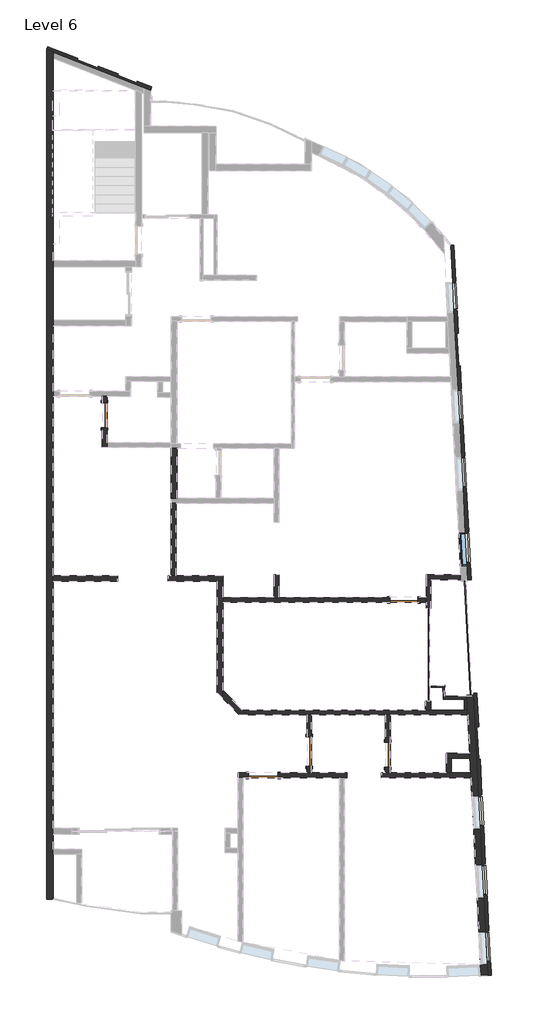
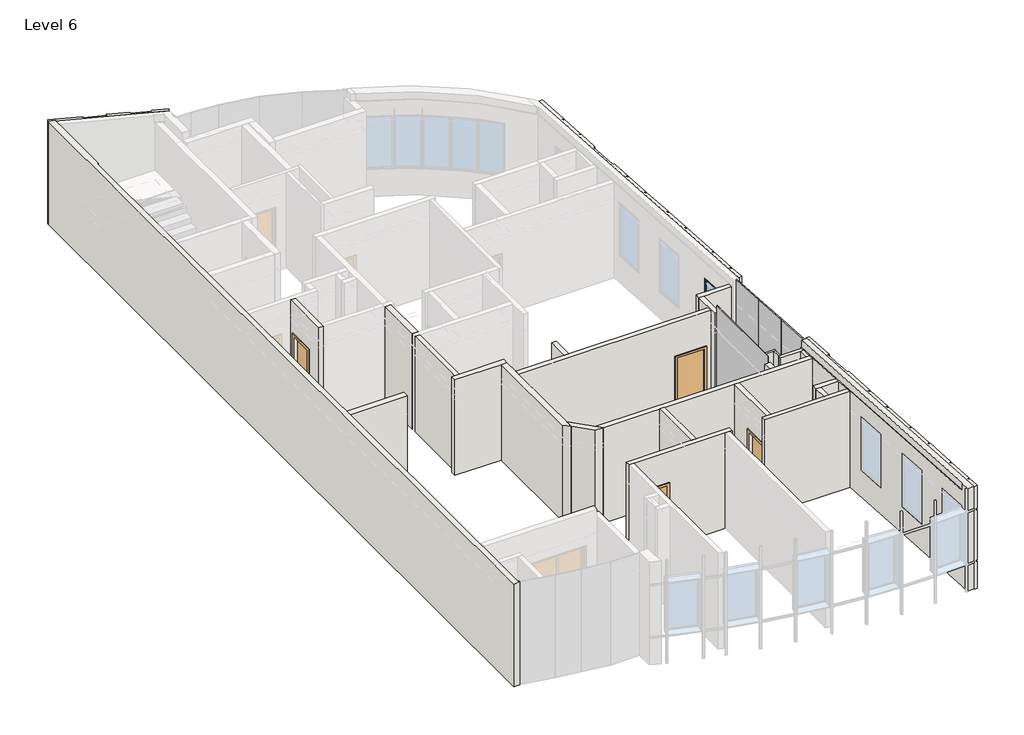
# One storey, part 2 of 5: 27 walls, 5 doors, 4 plates, 1 window.
"""IFC4 building model written with IfcOpenShell, lengths in millimetres."""

from ifc_helpers import new_model, si_unit, frame, origin, place, context, project, spatial, polyline, circle_curve, outline, extrude, faceted_brep, transform, mapped, element, save
from ifc_brep_helpers import plane_surface, cylinder_surface, revolved_surface, advanced_brep
from components import m_single_flush_0762_x_2134mm_8c18b9de, m_single_flush_0762_x_2134mm_1533e4c5, m_single_flush_0864_x_2032mm_5b632350, m_single_flush_0915_x_2134mm_138fd904, system_panel_glazed_de1ac752, system_panel_glazed_2b276406, system_panel_glazed_4e3138d7, wall_72c79ef7, wall_81e31146, m_fixed_1000_x_1830mm_2_3397196e

model = new_model("IFC4")

# Units and contexts
model_context = context("Model", 3, world=origin())
ifc_project = project(units=[si_unit("LENGTHUNIT", "METRE", prefix="MILLI")], contexts=[model_context])

# Site, building, storey
site = spatial("IfcSite", under=ifc_project)
building = spatial("IfcBuilding", under=site)
storey = spatial("IfcBuildingStorey", under=building, Name="Level 6", Elevation=22000.0)

# Doors
placement = place(None, origin())
m_single_flush_0762_x_2134mm_shape = m_single_flush_0762_x_2134mm_8c18b9de(model_context)
element("IfcDoor", 1, ObjectType="M_Single-Flush : 0762 x 2134mm", at=placement, inside=storey, context=model_context, shape_type="MappedRepresentation", body=[
    mapped(m_single_flush_0762_x_2134mm_shape, transform((1524.9578776, 3975.8830582, 22000.0), x_axis=(0.0, 1.0, 0.0), y_axis=(-1.0, 0.0, 0.0), z_axis=(0.0, 0.0, 1.0))),
])
m_single_flush_0762_x_2134mm_2_shape = m_single_flush_0762_x_2134mm_1533e4c5(model_context)
element("IfcDoor", 2, ObjectType="M_Single-Flush : 0762 x 2134mm", at=placement, inside=storey, context=model_context, shape_type="MappedRepresentation", body=[
    mapped(m_single_flush_0762_x_2134mm_2_shape, transform((10205.2907737, -6412.7981953, 22000.0), x_axis=(0.0, -1.0, 0.0), y_axis=(1.0, 0.0, 0.0), z_axis=(0.0, 0.0, 1.0))),
])
m_single_flush_0864_x_2032mm_shape = m_single_flush_0864_x_2032mm_5b632350(model_context)
element("IfcDoor", 3, ObjectType="M_Single-Flush : 0864 x 2032mm", at=placement, inside=storey, context=model_context, shape_type="MappedRepresentation", body=[
    mapped(m_single_flush_0864_x_2032mm_shape, transform((10697.9578778, -1678.9547298, 22000.0), x_axis=(1.0, 0.0, 0.0), y_axis=(0.0, 1.0, 0.0), z_axis=(0.0, 0.0, 1.0))),
])
m_single_flush_0915_x_2134mm_shape = m_single_flush_0915_x_2134mm_138fd904(model_context)
element("IfcDoor", 4, ObjectType="M_Single-Flush : 0915 x 2134mm", at=placement, inside=storey, context=model_context, shape_type="MappedRepresentation", body=[
    mapped(m_single_flush_0915_x_2134mm_shape, transform((6387.7907737, -7048.7981953, 22000.0), x_axis=(-1.0, 0.0, 0.0), y_axis=(0.0, -1.0, 0.0), z_axis=(0.0, 0.0, 1.0))),
])
element("IfcDoor", 5, ObjectType="M_Single-Flush : 0915 x 2134mm", at=placement, inside=storey, context=model_context, shape_type="MappedRepresentation", body=[
    mapped(m_single_flush_0915_x_2134mm_shape, transform((7795.2909314, -6316.2981953, 22000.0), x_axis=(0.0, -1.0, 0.0), y_axis=(1.0, 0.0, 0.0), z_axis=(0.0, 0.0, 1.0))),
])

# Plates
system_panel_glazed_shape = system_panel_glazed_de1ac752(model_context)
element("IfcPlate", 6, ObjectType="System Panel : Glazed", at=placement, inside=storey, context=model_context, shape_type="MappedRepresentation", body=[
    mapped(system_panel_glazed_shape, transform((12744.4041239, -4004.5629241, 22000.0), x_axis=(-0.05083502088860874, 0.9987070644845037, 0.0), y_axis=(-0.9987070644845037, -0.05083502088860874, 0.0), z_axis=(0.0, 0.0, 1.0))),
])
element("IfcPlate", 7, ObjectType="System Panel : Glazed", at=placement, inside=storey, context=model_context, shape_type="MappedRepresentation", body=[
    mapped(system_panel_glazed_shape, transform((12685.4354997, -2846.0627293, 22000.0), x_axis=(-0.05083502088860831, 0.9987070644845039, 0.0), y_axis=(-0.9987070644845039, -0.05083502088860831, 0.0), z_axis=(0.0, 0.0, 1.0))),
])
system_panel_glazed_2_shape = system_panel_glazed_2b276406(model_context)
element("IfcPlate", 8, ObjectType="System Panel : Glazed", at=placement, inside=storey, context=model_context, shape_type="MappedRepresentation", body=[
    mapped(system_panel_glazed_2_shape, transform((12626.3225461, -1684.727034, 22000.0), x_axis=(-0.05083502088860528, 0.998707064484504, 0.0), y_axis=(-0.998707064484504, -0.05083502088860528, 0.0), z_axis=(0.0, 0.0, 1.0))),
])
system_panel_glazed_3_shape = system_panel_glazed_4e3138d7(model_context)
element("IfcPlate", 9, ObjectType="System Panel : Glazed", at=placement, inside=storey, context=model_context, shape_type="MappedRepresentation", body=[
    mapped(system_panel_glazed_3_shape, transform((11490.9685725, -3358.899384, 22000.0), x_axis=(0.0, 1.0, 0.0), y_axis=(-1.0, 0.0, 0.0), z_axis=(0.0, 0.0, 1.0))),
])

# Walls
element("IfcWall", 10, ObjectType="Generic - 15cm-gypsu-2boith", at=placement, inside=storey, context=model_context, shape_type="Brep", body=[
    faceted_brep([(11129.9578778, -1603.9547298, 22000.0), (11129.9578778, -1603.9547298, 24032.0), (10265.9578778, -1603.9547298, 24032.0), (10265.9578778, -1603.9547298, 22000.0), (6869.9578779, -1603.9547298, 22000.0), (6719.9578779, -1603.9547298, 22000.0), (5149.9578778, -1603.9547298, 22000.0), (5149.9578778, -1603.9547298, 25259.0), (11349.9578778, -1603.9547298, 25259.0), (11349.9578778, -1603.9547298, 22000.0), (11129.9578778, -1753.9547298, 24032.0), (11129.9578778, -1753.9547298, 22000.0), (11349.9578778, -1753.9547298, 22000.0), (11349.9578778, -1753.9547298, 25259.0), (5149.9578778, -1753.9547298, 25259.0), (5149.9578778, -1753.9547298, 22000.0), (10265.9578778, -1753.9547298, 22000.0), (10265.9578778, -1753.9547298, 24032.0)], [[[0, 1, 2, 3, 4, 5, 6, 7, 8, 9]], [[10, 11, 12, 13, 14, 15, 16, 17]], [[9, 12, 11, 0]], [[15, 6, 5, 4, 3, 16]], [[12, 9, 8, 13]], [[6, 15, 14, 7]], [[1, 0, 11, 10]], [[2, 1, 10, 17]], [[3, 2, 17, 16]], [[8, 7, 14, 13]]]),
])
element("IfcWall", 11, ObjectType="Generic - 15cm-gypsu-2boith", at=placement, inside=storey, context=model_context, shape_type="Brep", body=[
    faceted_brep([(12423.9334548, -903.8603265, 22000.0), (11379.9578778, -903.8603265, 22000.0), (11379.9578778, -903.8603265, 25259.0), (12423.9334548, -903.8603265, 25259.0), (11379.9578778, -1053.8603265, 22000.0), (11529.9578778, -1053.8603265, 22000.0), (12423.9334548, -1053.8603265, 22000.0), (12423.9334548, -1053.8603265, 25259.0), (11529.9578778, -1053.8603265, 25259.0), (11379.9578778, -1053.8603265, 25259.0)], [[[0, 1, 2, 3]], [[4, 5, 6, 7, 8, 9]], [[1, 0, 6, 5, 4]], [[6, 0, 3, 7]], [[1, 4, 9, 2]], [[3, 2, 9, 8, 7]]]),
])
element("IfcWall", 12, ObjectType="Generic - 15cm-gypsu-2boith", at=placement, inside=storey, context=model_context, shape_type="SweptSolid", body=[
    extrude(outline(polyline([(11379.9578778, -1933.9547288), (11379.9578778, -1053.8603265), (11529.9578778, -1053.8603265), (11529.9578778, -1933.9547288), (11379.9578778, -1933.9547288)])), frame((0.0, 0.0, 22000.0), z_axis=(0.0, 0.0, 1.0), x_axis=(1.0, 0.0, 0.0)), (0.0, 0.0, 1.0), 3259.0),
])
element("IfcWall", 13, ObjectType="Generic - 15cm-gypsu-2boith", at=placement, inside=storey, context=model_context, shape_type="SweptSolid", body=[
    extrude(outline(polyline([(3569.9578779, -933.1221936), (3569.9578779, 1276.8778064), (3719.9578779, 1276.8778064), (3719.9578779, -933.1221936), (3569.9578779, -933.1221936)])), frame((0.0, 0.0, 22000.0), z_axis=(0.0, 0.0, 1.0), x_axis=(1.0, 0.0, 0.0)), (0.0, 0.0, 1.0), 3259.0),
])
element("IfcWall", 14, ObjectType="Generic - 18cm-gypsu-2boith 2", at=placement, inside=storey, context=model_context, shape_type="Brep", body=[
    faceted_brep([(5149.9578778, -933.1221936, 22000.0), (3719.9578779, -933.1221936, 22000.0), (3569.9578779, -933.1221936, 22000.0), (3473.9578779, -933.1221936, 22000.0), (3473.9578779, -933.1221936, 25259.0), (3569.9578779, -933.1221936, 25259.0), (3719.9578779, -933.1221936, 25259.0), (5149.9578778, -933.1221936, 25259.0), (3473.9578779, -1113.1221936, 22000.0), (4969.9578778, -1113.1221936, 22000.0), (5149.9578778, -1113.1221936, 22000.0), (5149.9578778, -1113.1221936, 25259.0), (4969.9578778, -1113.1221936, 25259.0), (3473.9578779, -1113.1221936, 25259.0)], [[[0, 1, 2, 3, 4, 5, 6, 7]], [[8, 9, 10, 11, 12, 13]], [[3, 2, 1, 0, 10, 9, 8]], [[3, 8, 13, 4]], [[10, 0, 7, 11]], [[7, 6, 5, 4, 13, 12, 11]]]),
])
element("IfcWall", 15, ObjectType="Generic - 18cm-gypsu-2boith 2", at=placement, inside=storey, context=model_context, shape_type="Brep", body=[
    faceted_brep([(4969.9578778, -1113.1221936, 22000.0), (4969.9578778, -4517.9715169, 22000.0), (4969.9578778, -4517.9715169, 25259.0), (4969.9578778, -1113.1221936, 25259.0), (5149.9578778, -4699.8400417, 22000.0), (5149.9578778, -4443.9569428, 22000.0), (5149.9578778, -1753.9547298, 22000.0), (5149.9578778, -1603.9547298, 22000.0), (5149.9578778, -1113.1221936, 22000.0), (5149.9578778, -1113.1221936, 25259.0), (5149.9578778, -1603.9547298, 25259.0), (5149.9578778, -1753.9547298, 25259.0), (5149.9578778, -4699.8400417, 25259.0)], [[[0, 1, 2, 3]], [[4, 5, 6, 7, 8, 9, 10, 11, 12]], [[1, 0, 8, 7, 6, 5, 4]], [[1, 4, 12, 2]], [[8, 0, 3, 9]], [[3, 2, 12, 11, 10, 9]]]),
])
element("IfcWall", 16, ObjectType="Generic - 18cm-gypsu-2boith 2", at=placement, inside=storey, context=model_context, shape_type="Brep", body=[
    faceted_brep([(5149.9578778, -4699.8400417, 22000.0), (5643.7897147, -5198.7981953, 22000.0), (5643.7897147, -5198.7981953, 25259.0), (5149.9578778, -4699.8400417, 25259.0), (5897.04386, -5198.7981953, 22000.0), (5748.5849662, -5048.7981953, 22000.0), (5149.9578778, -4443.9569428, 22000.0), (5149.9578778, -4443.9569428, 25259.0), (5897.04386, -5198.7981953, 25259.0)], [[[0, 1, 2, 3]], [[4, 5, 6, 7, 8]], [[1, 0, 6, 5, 4]], [[6, 0, 3, 7]], [[1, 4, 8, 2]], [[3, 2, 8, 7]]]),
])
element("IfcWall", 17, ObjectType="Generic - 15cm-granit&gypsum", at=placement, inside=storey, context=model_context, shape_type="Brep", body=[
    faceted_brep([(12647.2976465, -5048.7981953, 22000.0), (12641.1322496, -5048.7981953, 22000.0), (12541.1322496, -5048.7981953, 22000.0), (11529.9578778, -5048.7981953, 22000.0), (11349.9578778, -5048.7981953, 22000.0), (5748.5849662, -5048.7981953, 22000.0), (5748.5849662, -5048.7981953, 25259.0), (12647.2976465, -5048.7981953, 25259.0), (5897.04386, -5198.7981953, 22000.0), (7720.2909314, -5198.7981953, 22000.0), (7870.2909314, -5198.7981953, 22000.0), (10130.2907737, -5198.7981953, 22000.0), (10280.2907737, -5198.7981953, 22000.0), (12654.9327714, -5198.7981953, 22000.0), (12654.9327714, -5198.7981953, 25259.0), (5897.04386, -5198.7981953, 25259.0)], [[[0, 1, 2, 3, 4, 5, 6, 7]], [[8, 9, 10, 11, 12, 13, 14, 15]], [[5, 4, 3, 2, 1, 0, 13, 12, 11, 10, 9, 8]], [[5, 8, 15, 6]], [[13, 0, 7, 14]], [[7, 6, 15, 14]]]),
])
element("IfcWall", 18, ObjectType="Generic - 15cm-gypsu-2boith", at=placement, inside=storey, context=model_context, shape_type="SweptSolid", body=[
    extrude(outline(polyline([(-6773.7981953, 24134.0), (-6773.7981953, 22000.0), (-6973.7981953, 22000.0), (-6973.7981953, 25259.0), (-5198.7981953, 25259.0), (-5198.7981953, 22000.0), (-5858.7981953, 22000.0), (-5858.7981953, 24134.0), (-6773.7981953, 24134.0)])), frame((7720.2909314, 0.0, 0.0), z_axis=(1.0, 0.0, 0.0), x_axis=(0.0, 1.0, 0.0)), (0.0, 0.0, 1.0), 150.0),
])
element("IfcWall", 19, ObjectType="Generic - 15cm-granit&gypsum", at=placement, inside=storey, context=model_context, shape_type="Brep", body=[
    faceted_brep([(12745.2817489, -6973.7981953, 22000.0), (12147.4732011, -6973.7981953, 22000.0), (11997.4732011, -6973.7981953, 22000.0), (10280.2907737, -6973.7981953, 22000.0), (10130.2907737, -6973.7981953, 22000.0), (10005.6168737, -6973.7981953, 22000.0), (10005.6168737, -6973.7981953, 25259.0), (12745.2817489, -6973.7981953, 25259.0), (10005.6168737, -7123.7981953, 22000.0), (12752.9168737, -7123.7981953, 22000.0), (12752.9168737, -7123.7981953, 25259.0), (10005.6168737, -7123.7981953, 25259.0)], [[[0, 1, 2, 3, 4, 5, 6, 7]], [[8, 9, 10, 11]], [[5, 4, 3, 2, 1, 0, 9, 8]], [[5, 8, 11, 6]], [[9, 0, 7, 10]], [[7, 6, 11, 10]]]),
])
element("IfcWall", 20, ObjectType="Generic - 15cm-gypsu-2boith", at=placement, inside=storey, context=model_context, shape_type="Brep", body=[
    faceted_brep([(12714.7412494, -6373.7981953, 22000.0), (11997.4732011, -6373.7981953, 22000.0), (11997.4732011, -6373.7981953, 25259.0), (12714.7412494, -6373.7981953, 25259.0), (11997.4732011, -6523.7981953, 22000.0), (12147.4732011, -6523.7981953, 22000.0), (12722.3763743, -6523.7981953, 22000.0), (12722.3763743, -6523.7981953, 25259.0), (12147.4732011, -6523.7981953, 25259.0), (11997.4732011, -6523.7981953, 25259.0)], [[[0, 1, 2, 3]], [[4, 5, 6, 7, 8, 9]], [[1, 0, 6, 5, 4]], [[6, 0, 3, 7]], [[1, 4, 9, 2]], [[3, 2, 9, 8, 7]]]),
])
element("IfcWall", 21, ObjectType="Generic - 15cm-gypsu-2boith", at=placement, inside=storey, context=model_context, shape_type="SweptSolid", body=[
    extrude(outline(polyline([(11997.4732011, -6973.7981953), (11997.4732011, -6523.7981953), (12147.4732011, -6523.7981953), (12147.4732011, -6973.7981953), (11997.4732011, -6973.7981953)])), frame((0.0, 0.0, 22000.0), z_axis=(0.0, 0.0, 1.0), x_axis=(1.0, 0.0, 0.0)), (0.0, 0.0, 1.0), 3259.0),
])
element("IfcWall", 22, ObjectType="Generic - 10cm-gypsu-2boith", at=placement, inside=storey, context=model_context, shape_type="Brep", body=[
    faceted_brep([(11904.953185, -4724.0941461, 22000.0), (12541.1322496, -4725.6672919, 22000.0), (12641.1322496, -4725.9145722, 22000.0), (12641.1322496, -4725.9145722, 25259.0), (12541.1322496, -4725.6672919, 25259.0), (11904.953185, -4724.0941461, 25259.0), (12641.1322496, -4625.9142665, 22000.0), (11949.9334783, -4624.2050678, 22000.0), (11899.8624455, -4624.081252, 22000.0), (11899.8624455, -4624.081252, 25259.0), (11949.9334783, -4624.2050678, 25259.0), (12641.1322496, -4625.9142665, 25259.0)], [[[0, 1, 2, 3, 4, 5]], [[6, 7, 8, 9, 10, 11]], [[2, 1, 0, 8, 7, 6]], [[2, 6, 11, 3]], [[8, 0, 5, 9]], [[5, 4, 3, 11, 10, 9]]]),
])
element("IfcWall", 23, ObjectType="Generic - 10cm-gypsu-2boith", at=placement, inside=storey, context=model_context, shape_type="Brep", body=[
    faceted_brep([(12641.1322496, -5048.7981953, 22000.0), (12641.1322496, -4927.672536, 22000.0), (12641.1322496, -4725.9145722, 22000.0), (12641.1322496, -4725.9145722, 25259.0), (12641.1322496, -4927.672536, 25259.0), (12641.1322496, -5048.7981953, 25259.0), (12541.1322496, -4725.6672919, 22000.0), (12541.1322496, -5048.7981953, 22000.0), (12541.1322496, -5048.7981953, 25259.0), (12541.1322496, -4725.6672919, 25259.0), (12630.8613086, -4725.8891742, 22000.0), (12630.8613086, -4725.8891742, 25259.0)], [[[0, 1, 2, 3, 4, 5]], [[6, 7, 8, 9]], [[2, 1, 0, 7, 6, 10]], [[2, 10, 6, 9, 11, 3]], [[7, 0, 5, 8]], [[5, 4, 3, 11, 9, 8]]]),
])
element("IfcWall", 24, ObjectType="Antick", at=placement, inside=storey, context=model_context, shape_type="SweptSolid", body=[
    extrude(outline(polyline([(11899.8624455, -4624.081252), (11885.9208288, -4350.1836358), (11935.856182, -4347.6418848), (11949.9334783, -4624.2050678), (11899.8624455, -4624.081252)])), frame((0.0, 0.0, 22000.0), z_axis=(0.0, 0.0, 1.0), x_axis=(1.0, 0.0, 0.0)), (0.0, 0.0, 1.0), 3259.0),
])
element("IfcWall", 25, ObjectType="Antick", at=placement, inside=storey, context=model_context, shape_type="Brep", body=[
    faceted_brep([(11506.4121443, -4369.5009438, 22000.0), (11885.9208288, -4350.1836358, 22000.0), (11935.856182, -4347.6418848, 22000.0), (11955.8303233, -4346.6251844, 22000.0), (11955.8303233, -4346.6251844, 25259.0), (11935.856182, -4347.6418848, 25259.0), (11885.9208288, -4350.1836358, 25259.0), (11506.4121443, -4369.5009438, 25259.0), (11953.2885723, -4296.6898311, 22000.0), (11503.8703933, -4319.5655905, 22000.0), (11503.8703933, -4319.5655905, 25259.0), (11953.2885723, -4296.6898311, 25259.0)], [[[0, 1, 2, 3, 4, 5, 6, 7]], [[8, 9, 10, 11]], [[3, 2, 1, 0, 9, 8]], [[3, 8, 11, 4]], [[9, 0, 7, 10]], [[7, 6, 5, 4, 11, 10]]]),
])
element("IfcWall", 26, ObjectType="Generic - 18cm-gypsu-2boith 2", at=placement, inside=storey, context=model_context, shape_type="SweptSolid", body=[
    extrude(outline(polyline([(11529.9578778, -4783.8440392), (11529.9578778, -5048.7981953), (11349.9578778, -5048.7981953), (11349.9578778, -4783.8440392), (11529.9578778, -4783.8440392)])), frame((0.0, 0.0, 22000.0), z_axis=(0.0, 0.0, 1.0), x_axis=(1.0, 0.0, 0.0)), (0.0, 0.0, 1.0), 3259.0),
])
element("IfcWall", 27, ObjectType="Generic - 15cm-granit&gypsum", at=placement, inside=storey, context=model_context, shape_type="Brep", body=[
    faceted_brep([(1599.9578776, 4356.8830582, 24134.0), (1599.9578776, 4356.8830582, 22000.0), (1599.9578776, 4556.8830582, 22000.0), (1599.9578776, 4556.8830582, 25259.0), (1599.9578776, 3136.8778064, 25259.0), (1599.9578776, 2986.8778064, 25259.0), (1599.9578776, 2986.8778064, 22000.0), (1599.9578776, 3136.8778064, 22000.0), (1599.9578776, 3594.8830582, 22000.0), (1599.9578776, 3594.8830582, 24134.0), (1449.9578776, 4356.8830582, 22000.0), (1449.9578776, 4356.8830582, 24134.0), (1449.9578776, 3594.8830582, 24134.0), (1449.9578776, 3594.8830582, 22000.0), (1449.9578776, 2986.8778064, 22000.0), (1449.9578776, 2986.8778064, 25259.0), (1449.9578776, 4556.8830582, 25259.0), (1449.9578776, 4556.8830582, 22000.0)], [[[0, 1, 2, 3, 4, 5, 6, 7, 8, 9]], [[10, 11, 12, 13, 14, 15, 16, 17]], [[17, 2, 1, 10]], [[6, 14, 13, 8, 7]], [[2, 17, 16, 3]], [[14, 6, 5, 15]], [[11, 10, 1, 0]], [[12, 11, 0, 9]], [[13, 12, 9, 8]], [[5, 4, 3, 16, 15]]]),
])
element("IfcWall", 28, ObjectType="Generic - 18cm-gypsu-2boith 2", at=placement, inside=storey, context=model_context, shape_type="SweptSolid", body=[
    extrude(outline(polyline([(3569.9578779, 1426.8778064), (3569.9578779, 2956.8778064), (3749.9578779, 2956.8778064), (3749.9578779, 1426.8778064), (3569.9578779, 1426.8778064)])), frame((0.0, 0.0, 22000.0), z_axis=(0.0, 0.0, 1.0), x_axis=(1.0, 0.0, 0.0)), (0.0, 0.0, 1.0), 3259.0),
])
element("IfcWall", 29, ObjectType="Generic - 18cm-gypsu-2boith 2", at=placement, inside=storey, context=model_context, shape_type="SweptSolid", body=[
    extrude(outline(polyline([(-50.0421304, -933.1221936), (1933.9578781, -933.1221936), (1933.9578781, -1113.1221936), (-50.0421304, -1113.1221936), (-50.0421304, -933.1221936)])), frame((0.0, 0.0, 22000.0), z_axis=(0.0, 0.0, 1.0), x_axis=(1.0, 0.0, 0.0)), (0.0, 0.0, 1.0), 3259.0),
])
element("IfcWall", 30, ObjectType="Generic - 15cm-granit&gypsum", at=placement, inside=storey, context=model_context, shape_type="Brep", body=[
    faceted_brep([(6845.2907737, -6973.7981953, 22000.0), (6845.2907737, -6973.7981953, 24134.0), (5930.2907737, -6973.7981953, 24134.0), (5930.2907737, -6973.7981953, 22000.0), (5620.2907737, -6973.7981953, 22000.0), (5620.2907737, -6973.7981953, 25259.0), (7720.2909314, -6973.7981953, 25259.0), (7870.2909314, -6973.7981953, 25259.0), (8947.5168737, -6973.7981953, 25259.0), (8947.5168737, -6973.7981953, 22000.0), (7870.2909314, -6973.7981953, 22000.0), (7720.2909314, -6973.7981953, 22000.0), (6845.2907737, -7123.7981953, 24134.0), (6845.2907737, -7123.7981953, 22000.0), (8720.2907737, -7123.7981953, 22000.0), (8870.2907737, -7123.7981953, 22000.0), (8947.5168737, -7123.7981953, 22000.0), (8947.5168737, -7123.7981953, 25259.0), (8870.2907737, -7123.7981953, 25259.0), (8720.2907737, -7123.7981953, 25259.0), (5770.2907737, -7123.7981953, 25259.0), (5620.2907737, -7123.7981953, 25259.0), (5620.2907737, -7123.7981953, 22000.0), (5770.2907737, -7123.7981953, 22000.0), (5930.2907737, -7123.7981953, 22000.0), (5930.2907737, -7123.7981953, 24134.0)], [[[0, 1, 2, 3, 4, 5, 6, 7, 8, 9, 10, 11]], [[12, 13, 14, 15, 16, 17, 18, 19, 20, 21, 22, 23, 24, 25]], [[9, 16, 15, 14, 13, 0, 11, 10]], [[22, 4, 3, 24, 23]], [[16, 9, 8, 17]], [[4, 22, 21, 5]], [[13, 12, 1, 0]], [[12, 25, 2, 1]], [[25, 24, 3, 2]], [[8, 7, 6, 5, 21, 20, 19, 18, 17]]]),
])
element("IfcWall", 31, ObjectType="Generic - 15cm-granit&gypsum", at=placement, inside=storey, context=model_context, shape_type="SweptSolid", body=[
    extrude(outline(polyline([(6719.9578779, -1603.9547298), (6719.9578779, -903.9547298), (6869.9578779, -903.9547298), (6869.9578779, -1603.9547298), (6719.9578779, -1603.9547298)])), frame((0.0, 0.0, 22000.0), z_axis=(0.0, 0.0, 1.0), x_axis=(1.0, 0.0, 0.0)), (0.0, 0.0, 1.0), 3259.0),
])
wall_shape = wall_72c79ef7(model_context)
element("IfcWall", 32, ObjectType="kamposite8 : kamposite", at=placement, inside=storey, context=model_context, shape_type="MappedRepresentation", body=[
    mapped(wall_shape, transform((-2.0334008, 39.9482826, 2000.0), x_axis=(1.0, 0.0, 0.0), y_axis=(0.0, 1.0, 0.0), z_axis=(0.0, 0.0, 1.0))),
])
wall_2_shape = wall_81e31146(model_context)
element("IfcWall", 33, ObjectType="kamposite9 : kamposite2", at=placement, inside=storey, context=model_context, shape_type="MappedRepresentation", body=[
    mapped(wall_2_shape, transform((0.0, 0.0, 2000.0), x_axis=(1.0, 0.0, 0.0), y_axis=(0.0, 1.0, 0.0), z_axis=(0.0, 0.0, 1.0))),
])
element("IfcWall", 34, ObjectType="Generic - 15cm-granit 2", at=placement, inside=storey, context=model_context, shape_type="SweptSolid", body=[
    extrude(outline(polyline([(-6793.7981953, 24134.0), (-6793.7981953, 22000.0), (-6973.7981953, 22000.0), (-6973.7981953, 25259.0), (-5198.7981953, 25259.0), (-5198.7981953, 22000.0), (-6031.7981953, 22000.0), (-6031.7981953, 24134.0), (-6793.7981953, 24134.0)])), frame((10130.2907737, 0.0, 0.0), z_axis=(1.0, 0.0, 0.0), x_axis=(0.0, 1.0, 0.0)), (0.0, 0.0, 1.0), 150.0),
])
element("IfcWall", 35, ObjectType="Generic - 20cm-gypsum", at=placement, inside=storey, context=model_context, shape_type="Brep", body=[
    faceted_brep([(-50.0421304, -10845.40247, 22000.0), (-50.0421304, -9462.1185157, 22000.0), (-50.0421304, -9312.1185157, 22000.0), (-50.0421304, -8842.2362629, 22000.0), (-50.0421304, -8662.2362629, 22000.0), (-50.0421304, -1113.1221936, 22000.0), (-50.0421304, -933.1221936, 22000.0), (-50.0421304, 4556.8830582, 22000.0), (-50.0421304, 4706.8830582, 22000.0), (-50.0421304, 6706.8748838, 22000.0), (-50.0421304, 6886.8748838, 22000.0), (-50.0421304, 8516.8748746, 22000.0), (-50.0421304, 8696.8748746, 22000.0), (-50.0421304, 14901.0479686, 22000.0), (-50.0421304, 15115.5710671, 22000.0), (-50.0421304, 15115.5710671, 25500.0), (-50.0421304, 14901.0479686, 25500.0), (-50.0421304, 12708.2107611, 25500.0), (-50.0421304, 12708.2107611, 25259.0), (-50.0421304, 8696.8748746, 25259.0), (-50.0421304, 8516.8748746, 25259.0), (-50.0421304, 6886.8748838, 25259.0), (-50.0421304, 6706.8748838, 25259.0), (-50.0421304, 4706.8830582, 25259.0), (-50.0421304, 4556.8830582, 25259.0), (-50.0421304, -933.1221936, 25259.0), (-50.0421304, -1113.1221936, 25259.0), (-50.0421304, -9312.1185157, 25259.0), (-50.0421304, -9462.1185157, 25259.0), (-50.0421304, -10787.9093736, 25259.0), (-50.0421304, -10787.9093736, 25500.0), (-50.0421304, -10845.40247, 25500.0), (-250.0421304, 15193.1607555, 22000.0), (-250.0421304, -10845.40247, 22000.0), (-250.0421304, -10845.40247, 25500.0), (-250.0421304, 15193.1607555, 25500.0), (-80.0421304, -10781.5326767, 25500.0), (-80.0421304, 12708.2107611, 25500.0), (-80.0421304, 12708.2107611, 25259.0), (-80.0421304, -10781.5326767, 25259.0)], [[[0, 1, 2, 3, 4, 5, 6, 7, 8, 9, 10, 11, 12, 13, 14, 15, 16, 17, 18, 19, 20, 21, 22, 23, 24, 25, 26, 27, 28, 29, 30, 31]], [[32, 33, 34, 35]], [[14, 13, 12, 11, 10, 9, 8, 7, 6, 5, 4, 3, 2, 1, 0, 33, 32]], [[35, 34, 31, 30, 36, 37, 17, 16, 15]], [[0, 31, 34, 33]], [[15, 14, 32, 35]], [[38, 39, 29, 28, 27, 26, 25, 24, 23, 22, 21, 20, 19, 18]], [[39, 36, 30, 29]], [[39, 38, 37, 36]], [[37, 38, 18, 17]]]),
])
element("IfcWall", 36, ObjectType="Generic - 20cm-gypsum", at=placement, inside=storey, context=model_context, shape_type="AdvancedBrep", body=[
    advanced_brep(
    [(12624.0178131, -4591.441561, 22000.0), (12630.8613086, -4725.8891742, 22000.0), (12630.8613086, -4725.8891742, 25259.0), (12624.0178131, -4591.441561, 25259.0), (12641.1322496, -4927.672536, 22000.0), (12647.2976465, -5048.7981953, 22000.0), (12654.9327714, -5198.7981953, 22000.0), (12714.7412494, -6373.7981953, 22000.0), (12722.3763743, -6523.7981953, 22000.0), (12745.2817489, -6973.7981953, 22000.0), (12752.9168737, -7123.7981953, 22000.0), (13044.0399551, -12843.2151043, 22000.0), (13060.3079076, -13162.8160173, 22000.0), (13060.3079076, -13162.8160173, 22901.1018524), (13059.0369746, -13137.84721, 22901.1018524), (13059.0369746, -13137.84721, 22951.1018524), (13060.3079076, -13162.8160173, 22951.1018524), (13060.3079076, -13162.8160173, 24695.0), (13059.0369746, -13137.84721, 24695.0), (13059.0369746, -13137.84721, 24745.0), (13060.3079076, -13162.8160173, 24745.0), (13060.3079076, -13162.8160173, 25500.0), (13045.5650765, -12873.1777067, 25500.0), (13045.5650765, -12873.1777067, 25259.0), (13044.0399551, -12843.2151043, 25259.0), (12752.9168737, -7123.7981953, 25259.0), (12745.2817489, -6973.7981953, 25259.0), (12722.3763743, -6523.7981953, 25259.0), (12714.7412494, -6373.7981953, 25259.0), (12654.9327714, -5198.7981953, 25259.0), (12647.2976465, -5048.7981953, 25259.0), (12641.1322496, -4927.672536, 25259.0), (13044.1204917, -12844.7973291, 22900.0), (12993.2854708, -11846.0902646, 22900.0), (12993.2854708, -11846.0902646, 24730.0), (13044.1204917, -12844.7973291, 24730.0), (12939.9086989, -10797.4478469, 22900.0), (12889.073678, -9798.7407824, 22900.0), (12889.073678, -9798.7407824, 24730.0), (12939.9086989, -10797.4478469, 24730.0), (12832.6468048, -8690.1759409, 22900.0), (12781.8117839, -7691.4688764, 22900.0), (12781.8117839, -7691.4688764, 24730.0), (12832.6468048, -8690.1759409, 24730.0), (12823.759226, -4581.2745568, 25500.0), (13259.9103282, -13149.9183632, 25500.0), (13259.9103282, -13149.9183632, 24745.0), (13258.6392504, -13124.9467139, 24745.0), (13258.6392504, -13124.9467139, 24695.0), (13259.9103282, -13149.9183632, 24695.0), (13259.9103282, -13149.9183632, 22951.1018524), (13258.6392504, -13124.9467139, 22951.1018524), (13258.6392504, -13124.9467139, 22901.1018524), (13259.9103282, -13149.9183632, 22901.1018524), (13259.9103282, -13149.9183632, 22000.0), (12823.759226, -4581.2745568, 22000.0), (13193.0268837, -11835.9232605, 22900.0), (13243.8619046, -12834.6303249, 22900.0), (13243.8619046, -12834.6303249, 24730.0), (13193.0268837, -11835.9232605, 24730.0), (13088.8150909, -9788.5737783, 22900.0), (13139.6501118, -10787.2808427, 22900.0), (13139.6501118, -10787.2808427, 24730.0), (13088.8150909, -9788.5737783, 24730.0), (12981.5531968, -7681.3018722, 22900.0), (13032.3882177, -8680.0089367, 22900.0), (13032.3882177, -8680.0089367, 24730.0), (12981.5531968, -7681.3018722, 24730.0), (12653.9790251, -4589.9165104, 25500.0), (13075.5106422, -12871.3452698, 25500.0), (12641.1322496, -4725.9145722, 22000.0), (12653.9790251, -4589.9165104, 25259.0), (12641.1322496, -4725.9145722, 25259.0), (13075.5106422, -12871.3452698, 25259.0)],
    [
        (0, 1),
        (1, 2),
        (2, 3),
        (3, 0),
        (4, 5),
        (5, 6),
        (6, 7),
        (7, 8),
        (8, 9),
        (9, 10),
        (10, 11),
        (11, 12),
        (12, 13),
        (13, 14),
        (14, 15),
        (15, 16),
        (16, 17),
        (17, 18),
        (18, 19),
        (19, 20),
        (20, 21),
        (21, 22),
        (22, 23),
        (23, 24),
        (24, 25),
        (25, 26),
        (26, 27),
        (27, 28),
        (28, 29),
        (29, 30),
        (30, 31),
        (31, 4),
        (32, 33),
        (33, 34),
        (34, 35),
        (35, 32),
        (36, 37),
        (37, 38),
        (38, 39),
        (39, 36),
        (40, 41),
        (41, 42),
        (42, 43),
        (43, 40),
        (44, 45),
        (45, 46),
        (46, 47),
        (47, 48),
        (48, 49),
        (49, 50),
        (50, 51),
        (51, 52),
        (52, 53),
        (53, 54),
        (54, 55),
        (55, 44),
        (56, 57),
        (57, 58),
        (58, 59),
        (59, 56),
        (60, 61),
        (61, 62),
        (62, 63),
        (63, 60),
        (64, 65),
        (65, 66),
        (66, 67),
        (67, 64),
        (44, 68),
        (68, 69),
        (69, 22, circle_curve(frame((11609.3245394, 10843.3737526, 25500.0), z_axis=(0.0, 0.0, -1.0), x_axis=(1.0, 0.0, 0.0)), 23760.0)),
        (21, 45, circle_curve(frame((11609.3245394, 10843.3737526, 25500.0), z_axis=(0.0, 0.0, 1.0), x_axis=(-0.33468074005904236, -0.942331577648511, 0.0)), 24050.0)),
        (54, 12, circle_curve(frame((11609.3245394, 10843.3737526, 22000.0), z_axis=(0.0, 0.0, -1.0), x_axis=(-0.33468074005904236, -0.942331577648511, 0.0)), 24050.0)),
        (4, 70),
        (70, 1),
        (0, 55),
        (3, 71),
        (71, 68),
        (20, 46, circle_curve(frame((11609.3245394, 10843.3737526, 24745.0), z_axis=(0.0, 0.0, 1.0), x_axis=(-0.33468074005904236, -0.942331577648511, 0.0)), 24050.0)),
        (53, 13, circle_curve(frame((11609.3245394, 10843.3737526, 22901.1018524), z_axis=(0.0, 0.0, -1.0), x_axis=(-0.33468074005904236, -0.942331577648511, 0.0)), 24050.0)),
        (16, 50, circle_curve(frame((11609.3245394, 10843.3737526, 22951.1018524), z_axis=(0.0, 0.0, 1.0), x_axis=(-0.33468074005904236, -0.942331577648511, 0.0)), 24050.0)),
        (49, 17, circle_curve(frame((11609.3245394, 10843.3737526, 24695.0), z_axis=(0.0, 0.0, -1.0), x_axis=(-0.33468074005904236, -0.942331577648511, 0.0)), 24050.0)),
        (56, 33),
        (32, 57),
        (59, 34),
        (58, 35),
        (60, 37),
        (36, 61),
        (63, 38),
        (62, 39),
        (64, 41),
        (40, 65),
        (67, 42),
        (66, 43),
        (31, 72),
        (72, 70),
        (72, 2),
        (15, 51, circle_curve(frame((11609.3245394, 10843.3737526, 22951.1018524), z_axis=(0.0, 0.0, 1.0), x_axis=(0.06863142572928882, -0.9976420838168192, 0.0)), 24025.0)),
        (52, 14, circle_curve(frame((11609.3245394, 10843.3737526, 22901.1018524), z_axis=(0.0, 0.0, -1.0), x_axis=(0.06863142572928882, -0.9976420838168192, 0.0)), 24025.0)),
        (19, 47, circle_curve(frame((11609.3245394, 10843.3737526, 24745.0), z_axis=(0.0, 0.0, 1.0), x_axis=(0.06863142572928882, -0.9976420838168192, 0.0)), 24025.0)),
        (48, 18, circle_curve(frame((11609.3245394, 10843.3737526, 24695.0), z_axis=(0.0, 0.0, -1.0), x_axis=(0.06863142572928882, -0.9976420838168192, 0.0)), 24025.0)),
        (73, 71),
        (23, 73, circle_curve(frame((11609.3245394, 10843.3737526, 25259.0), z_axis=(0.0, 0.0, 1.0), x_axis=(1.0, 0.0, 0.0)), 23760.0)),
        (73, 69),
    ],
    [
        plane_surface(frame((13052.1146146, -13001.8502213, 25500.0), z_axis=(-0.9987070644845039, -0.05083502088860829, 0.0), x_axis=(-0.05083502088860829, 0.9987070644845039, 0.0))),
        plane_surface(frame((13251.8560275, -12991.6832171, 25500.0), z_axis=(0.9987070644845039, 0.05083502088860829, 0.0), x_axis=(0.05083502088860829, -0.9987070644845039, 0.0))),
        plane_surface(frame((13052.1146146, -13001.8502213, 25500.0), z_axis=(0.0, 0.0, 1.0), x_axis=(0.998707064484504, 0.050835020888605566, 0.0))),
        plane_surface(frame((12624.0178131, -4591.441561, 22000.0), z_axis=(0.0, 0.0, -1.0), x_axis=(0.998707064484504, 0.050835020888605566, 0.0))),
        plane_surface(frame((12624.0178131, -4591.441561, 25500.0), z_axis=(-0.050835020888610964, 0.9987070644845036, 0.0), x_axis=(0.9987070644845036, 0.050835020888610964, 0.0))),
        cylinder_surface(frame((11609.3245394, 10843.3737526, 22000.0), z_axis=(0.0, 0.0, 1.0), x_axis=(-0.33468074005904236, -0.942331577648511, 0.0)), 24050.0),
        plane_surface(frame((13193.0268837, -11835.9232605, 22900.0), z_axis=(0.0, 0.0, 1.0), x_axis=(-0.998707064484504, -0.050835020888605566, 0.0))),
        plane_surface(frame((13193.0268837, -11835.9232605, 24730.0), z_axis=(0.050835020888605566, -0.998707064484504, 0.0), x_axis=(-0.998707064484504, -0.050835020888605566, 0.0))),
        plane_surface(frame((13243.8619046, -12834.6303249, 24730.0), z_axis=(0.0, 0.0, -1.0), x_axis=(-0.998707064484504, -0.050835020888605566, 0.0))),
        plane_surface(frame((13243.8619046, -12834.6303249, 22900.0), z_axis=(-0.050835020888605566, 0.998707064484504, 0.0), x_axis=(-0.998707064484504, -0.050835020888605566, 0.0))),
        plane_surface(frame((13088.8150909, -9788.5737783, 22900.0), z_axis=(0.0, 0.0, 1.0), x_axis=(-0.998707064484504, -0.050835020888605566, 0.0))),
        plane_surface(frame((13088.8150909, -9788.5737783, 24730.0), z_axis=(0.050835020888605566, -0.998707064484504, 0.0), x_axis=(-0.998707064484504, -0.050835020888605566, 0.0))),
        plane_surface(frame((13139.6501118, -10787.2808427, 24730.0), z_axis=(0.0, 0.0, -1.0), x_axis=(-0.998707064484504, -0.050835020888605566, 0.0))),
        plane_surface(frame((13139.6501118, -10787.2808427, 22900.0), z_axis=(-0.050835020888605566, 0.998707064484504, 0.0), x_axis=(-0.998707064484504, -0.050835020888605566, 0.0))),
        plane_surface(frame((12981.5531968, -7681.3018722, 22900.0), z_axis=(0.0, 0.0, 1.0), x_axis=(-0.998707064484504, -0.050835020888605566, 0.0))),
        plane_surface(frame((12981.5531968, -7681.3018722, 24730.0), z_axis=(0.050835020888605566, -0.998707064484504, 0.0), x_axis=(-0.998707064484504, -0.050835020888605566, 0.0))),
        plane_surface(frame((13032.3882177, -8680.0089367, 24730.0), z_axis=(0.0, 0.0, -1.0), x_axis=(-0.998707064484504, -0.050835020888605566, 0.0))),
        plane_surface(frame((13032.3882177, -8680.0089367, 22900.0), z_axis=(-0.050835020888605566, 0.998707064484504, 0.0), x_axis=(-0.998707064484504, -0.050835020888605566, 0.0))),
        plane_surface(frame((12641.1322496, -4755.8842521, 22000.0), z_axis=(-1.0, 0.0, 0.0), x_axis=(0.0, 1.0, 0.0))),
        plane_surface(frame((11949.6861987, -4724.204762, 22000.0), z_axis=(-0.002472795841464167, -0.9999969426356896, 0.0), x_axis=(0.9999969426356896, -0.002472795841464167, 0.0))),
        plane_surface(frame((11609.3245394, 10843.3737526, 22951.1018524), z_axis=(0.0, 0.0, -1.0000000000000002), x_axis=(0.06863142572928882, -0.9976420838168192, 0.0))),
        plane_surface(frame((11609.3245394, 10843.3737526, 22901.1018524), z_axis=(0.0, 0.0, 1.0000000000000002), x_axis=(0.06863142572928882, -0.9976420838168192, 0.0))),
        cylinder_surface(frame((11609.3245394, 10843.3737526, 22926.1018524), z_axis=(0.0, 0.0, -1.0), x_axis=(0.06863142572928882, -0.9976420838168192, 0.0)), 24025.0),
        plane_surface(frame((11609.3245394, 10843.3737526, 24745.0), z_axis=(0.0, 0.0, -1.0000000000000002), x_axis=(0.06863142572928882, -0.9976420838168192, 0.0))),
        plane_surface(frame((11609.3245394, 10843.3737526, 24695.0), z_axis=(0.0, 0.0, 1.0000000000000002), x_axis=(0.06863142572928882, -0.9976420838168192, 0.0))),
        cylinder_surface(frame((11609.3245394, 10843.3737526, 24720.0), z_axis=(0.0, 0.0, -1.0), x_axis=(0.06863142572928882, -0.9976420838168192, 0.0)), 24025.0),
        plane_surface(frame((-80.0421304, 14944.8648867, 25259.0), z_axis=(0.0, 0.0, 1.0), x_axis=(0.9323005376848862, -0.36168454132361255, 0.0))),
        plane_surface(frame((12653.9790251, -4589.9165104, 25259.0), z_axis=(-0.9987070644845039, -0.05083502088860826, 0.0), x_axis=(0.0, 0.0, 1.0))),
        revolved_surface(polyline([(35369.3245394, 10843.3737526, 25259.0), (35369.3245394, 10843.3737526, 25500.0)]), (11609.3245394, 10843.3737526, 25500.0), (0.0, 0.0, -1.0)),
    ],
    [
        (0, [[1, 2, 3, 4]]),
        (0, [[5, 6, 7, 8, 9, 10, 11, 12, 13, 14, 15, 16, 17, 18, 19, 20, 21, 22, 23, 24, 25, 26, 27, 28, 29, 30, 31, 32], [33, 34, 35, 36], [37, 38, 39, 40], [41, 42, 43, 44]]),
        (1, [[45, 46, 47, 48, 49, 50, 51, 52, 53, 54, 55, 56], [57, 58, 59, 60], [61, 62, 63, 64], [65, 66, 67, 68]]),
        (2, [[-45, 69, 70, 71, -22, 72]]),
        (3, [[-55, 73, -12, -11, -10, -9, -8, -7, -6, -5, 74, 75, -1, 76]]),
        (4, [[-56, -76, -4, 77, 78, -69]]),
        (5, [[-72, -21, 79, -46]]),
        (5, [[-73, -54, 80, -13]]),
        (5, [[81, -50, 82, -17]]),
        (6, [[-57, 83, -33, 84]]),
        (7, [[-60, 85, -34, -83]]),
        (8, [[-59, 86, -35, -85]]),
        (9, [[-58, -84, -36, -86]]),
        (10, [[-61, 87, -37, 88]]),
        (11, [[-64, 89, -38, -87]]),
        (12, [[-63, 90, -39, -89]]),
        (13, [[-62, -88, -40, -90]]),
        (14, [[-65, 91, -41, 92]]),
        (15, [[-68, 93, -42, -91]]),
        (16, [[-67, 94, -43, -93]]),
        (17, [[-66, -92, -44, -94]]),
        (18, [[-74, -32, 95, 96]]),
        (19, [[-75, -96, 97, -2]]),
        (20, [[98, -51, -81, -16]]),
        (21, [[99, -14, -80, -53]]),
        (22, [[-98, -15, -99, -52]]),
        (23, [[100, -47, -79, -20]]),
        (24, [[101, -18, -82, -49]]),
        (25, [[-100, -19, -101, -48]]),
        (26, [[102, -77, -3, -97, -95, -31, -30, -29, -28, -27, -26, -25, -24, 103]]),
        (27, [[-102, 104, -70, -78]]),
        (28, [[-104, -103, -23, -71]]),
    ],
),
])

# Window
m_fixed_1000_x_1830mm_2_shape = m_fixed_1000_x_1830mm_2_3397196e(model_context)
element("IfcWindow", 37, ObjectType="M_Fixed : 1000 x 1830mm 2", at=placement, inside=storey, context=model_context, shape_type="MappedRepresentation", body=[
    mapped(m_fixed_1000_x_1830mm_2_shape, transform((12510.0987492, -130.5055762, 22595.0), x_axis=(-0.05083502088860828, 0.9987070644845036, 0.0), y_axis=(-0.9987070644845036, -0.05083502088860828, 0.0), z_axis=(0.0, 0.0, 1.0))),
])

save(model, "model.ifc")
